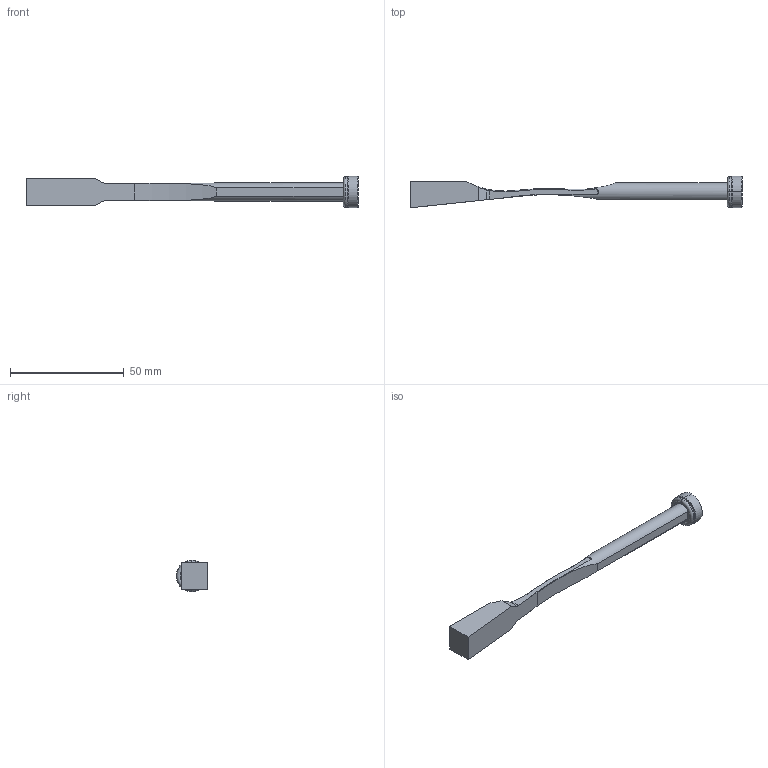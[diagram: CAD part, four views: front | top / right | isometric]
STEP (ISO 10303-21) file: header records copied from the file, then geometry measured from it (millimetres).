
FILE_DESCRIPTION (( 'STEP AP214' ), '1' );
FILE_NAME ('pw081225_injection.STEP', '2021-07-15T09:16:20', ( '' ), ( '' ), 'SwSTEP 2.0', 'SolidWorks 2019', '' );
FILE_SCHEMA (( 'AUTOMOTIVE_DESIGN' ));
Length unit declared in the file: millimetre
Products named in the file (5): pw081225_injection; 1DIN7984516_DIN 7984 - M5 x 16 --- 16C; 3JT9.5X2X13.5; 9FP1406M5; 9PW081225 TANCADA
Assembly tree (4 placements, depth 2):
  pw081225_injection
    9PW081225 TANCADA
    9FP1406M5
    1DIN7984516_DIN 7984 - M5 x 16 --- 16C
    3JT9.5X2X13.5
Bounding box: 146 x 13.9 x 13.8 mm (x, y, z)
Volume: 8264.3 mm3; surface area: 5938.3 mm2
Topology: 4 solids, 4 shells, 446 faces, 1210 edges, 792 vertices
Faces by surface type: bspline 233, plane 120, cylinder 61, cone 16, torus 16
Entity records: 23539 total; most frequent: CARTESIAN_POINT 14259, ORIENTED_EDGE 2412, EDGE_CURVE 1206, DIRECTION 944, B_SPLINE_CURVE_WITH_KNOTS 816, VERTEX_POINT 792, EDGE_LOOP 474, ADVANCED_FACE 446
